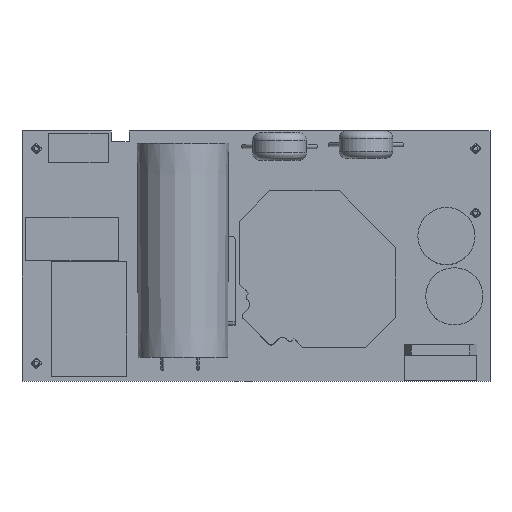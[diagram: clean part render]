
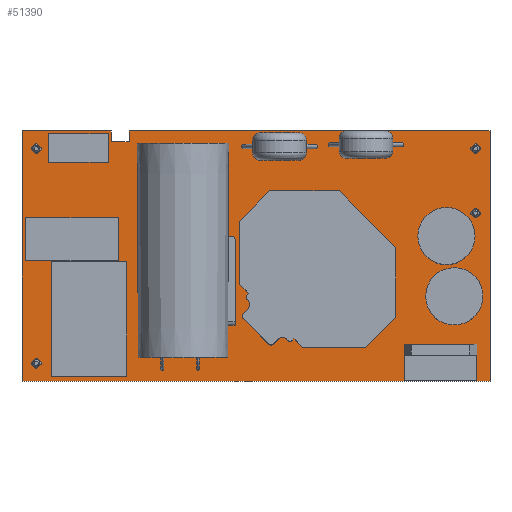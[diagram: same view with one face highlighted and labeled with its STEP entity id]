
A CAD part, top view. The second image highlights one B-rep face of the part: STEP entity #51390.
In plain terms, the highlighted planar face has unit normal (0, 0, 1).
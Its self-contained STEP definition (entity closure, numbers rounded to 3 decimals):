
#49990=CARTESIAN_POINT('',(40.036,101.806,-17.));
#50000=VERTEX_POINT('',#49990);
#50030=CARTESIAN_POINT('',(44.91,101.806,-17.));
#50040=DIRECTION('',(-1.,0.,0.));
#50050=VECTOR('',#50040,1.);
#50060=LINE('',#50030,#50050);
#50070=CARTESIAN_POINT('',(37.536,101.806,-17.));
#50080=VERTEX_POINT('',#50070);
#50090=EDGE_CURVE('',#50000,#50080,#50060,.T.);
#50210=CARTESIAN_POINT('',(44.91,104.626,-17.));
#50220=DIRECTION('',(0.,0.,-1.));
#50230=DIRECTION('',(-1.,0.,0.));
#50240=AXIS2_PLACEMENT_3D('',#50210,#50220,#50230);
#50250=PLANE('',#50240);
#50260=CARTESIAN_POINT('',(25.036,103.306,-17.));
#50270=DIRECTION('',(1.,0.,0.));
#50280=VECTOR('',#50270,1.);
#50290=LINE('',#50260,#50280);
#50300=CARTESIAN_POINT('',(25.036,103.306,-17.));
#50310=VERTEX_POINT('',#50300);
#50320=CARTESIAN_POINT('',(37.536,103.306,-17.));
#50330=VERTEX_POINT('',#50320);
#50340=EDGE_CURVE('',#50310,#50330,#50290,.T.);
#50350=ORIENTED_EDGE('',*,*,#50340,.F.);
#50360=CARTESIAN_POINT('',(37.536,104.626,-17.));
#50370=DIRECTION('',(0.,1.,0.));
#50380=VECTOR('',#50370,1.);
#50390=LINE('',#50360,#50380);
#50400=EDGE_CURVE('',#50080,#50330,#50390,.T.);
#50410=ORIENTED_EDGE('',*,*,#50400,.T.);
#50420=ORIENTED_EDGE('',*,*,#50090,.T.);
#50430=CARTESIAN_POINT('',(40.036,104.626,-17.));
#50440=DIRECTION('',(0.,-1.,0.));
#50450=VECTOR('',#50440,1.);
#50460=LINE('',#50430,#50450);
#50470=CARTESIAN_POINT('',(40.036,103.306,-17.));
#50480=VERTEX_POINT('',#50470);
#50490=EDGE_CURVE('',#50480,#50000,#50460,.T.);
#50500=ORIENTED_EDGE('',*,*,#50490,.T.);
#50510=CARTESIAN_POINT('',(90.536,103.306,-17.));
#50520=VERTEX_POINT('',#50510);
#50530=EDGE_CURVE('',#50480,#50520,#50290,.T.);
#50540=ORIENTED_EDGE('',*,*,#50530,.F.);
#50550=CARTESIAN_POINT('',(90.536,103.306,-17.));
#50560=DIRECTION('',(0.,-1.,0.));
#50570=VECTOR('',#50560,1.);
#50580=LINE('',#50550,#50570);
#50590=CARTESIAN_POINT('',(90.536,68.306,-17.));
#50600=VERTEX_POINT('',#50590);
#50610=EDGE_CURVE('',#50520,#50600,#50580,.T.);
#50620=ORIENTED_EDGE('',*,*,#50610,.F.);
#50630=CARTESIAN_POINT('',(90.536,68.306,-17.));
#50640=DIRECTION('',(-1.,0.,0.));
#50650=VECTOR('',#50640,1.);
#50660=LINE('',#50630,#50650);
#50670=CARTESIAN_POINT('',(25.036,68.306,-17.));
#50680=VERTEX_POINT('',#50670);
#50690=EDGE_CURVE('',#50600,#50680,#50660,.T.);
#50700=ORIENTED_EDGE('',*,*,#50690,.F.);
#50710=CARTESIAN_POINT('',(25.036,68.306,-17.));
#50720=DIRECTION('',(0.,1.,0.));
#50730=VECTOR('',#50720,1.);
#50740=LINE('',#50710,#50730);
#50750=EDGE_CURVE('',#50680,#50310,#50740,.T.);
#50760=ORIENTED_EDGE('',*,*,#50750,.F.);
#50770=EDGE_LOOP('',(#50760,#50700,#50620,#50540,#50500,#50420,#50410,
#50350));
#50780=FACE_OUTER_BOUND('',#50770,.T.);
#50790=CARTESIAN_POINT('',(27.036,100.806,-17.));
#50800=DIRECTION('',(0.,0.,-1.));
#50810=DIRECTION('',(-1.,0.,0.));
#50820=AXIS2_PLACEMENT_3D('',#50790,#50800,#50810);
#50830=CIRCLE('',#50820,0.575);
#50840=CARTESIAN_POINT('',(26.461,100.806,-17.));
#50850=VERTEX_POINT('',#50840);
#50860=CARTESIAN_POINT('',(27.611,100.806,-17.));
#50870=VERTEX_POINT('',#50860);
#50880=EDGE_CURVE('',#50850,#50870,#50830,.T.);
#50890=ORIENTED_EDGE('',*,*,#50880,.T.);
#50900=EDGE_CURVE('',#50870,#50850,#50830,.T.);
#50910=ORIENTED_EDGE('',*,*,#50900,.T.);
#50920=EDGE_LOOP('',(#50910,#50890));
#50930=FACE_BOUND('',#50920,.T.);
#50940=CARTESIAN_POINT('',(88.536,91.806,-17.));
#50950=DIRECTION('',(0.,0.,-1.));
#50960=DIRECTION('',(-1.,0.,0.));
#50970=AXIS2_PLACEMENT_3D('',#50940,#50950,#50960);
#50980=CIRCLE('',#50970,0.575);
#50990=CARTESIAN_POINT('',(87.961,91.806,-17.));
#51000=VERTEX_POINT('',#50990);
#51010=CARTESIAN_POINT('',(89.111,91.806,-17.));
#51020=VERTEX_POINT('',#51010);
#51030=EDGE_CURVE('',#51000,#51020,#50980,.T.);
#51040=ORIENTED_EDGE('',*,*,#51030,.T.);
#51050=EDGE_CURVE('',#51020,#51000,#50980,.T.);
#51060=ORIENTED_EDGE('',*,*,#51050,.T.);
#51070=EDGE_LOOP('',(#51060,#51040));
#51080=FACE_BOUND('',#51070,.T.);
#51090=CARTESIAN_POINT('',(88.536,100.806,-17.));
#51100=DIRECTION('',(0.,0.,-1.));
#51110=DIRECTION('',(-1.,0.,0.));
#51120=AXIS2_PLACEMENT_3D('',#51090,#51100,#51110);
#51130=CIRCLE('',#51120,0.575);
#51140=CARTESIAN_POINT('',(87.961,100.806,-17.));
#51150=VERTEX_POINT('',#51140);
#51160=CARTESIAN_POINT('',(89.111,100.806,-17.));
#51170=VERTEX_POINT('',#51160);
#51180=EDGE_CURVE('',#51150,#51170,#51130,.T.);
#51190=ORIENTED_EDGE('',*,*,#51180,.T.);
#51200=EDGE_CURVE('',#51170,#51150,#51130,.T.);
#51210=ORIENTED_EDGE('',*,*,#51200,.T.);
#51220=EDGE_LOOP('',(#51210,#51190));
#51230=FACE_BOUND('',#51220,.T.);
#51240=CARTESIAN_POINT('',(27.036,70.806,-17.));
#51250=DIRECTION('',(0.,0.,-1.));
#51260=DIRECTION('',(-1.,0.,0.));
#51270=AXIS2_PLACEMENT_3D('',#51240,#51250,#51260);
#51280=CIRCLE('',#51270,0.575);
#51290=CARTESIAN_POINT('',(26.461,70.806,-17.));
#51300=VERTEX_POINT('',#51290);
#51310=CARTESIAN_POINT('',(27.611,70.806,-17.));
#51320=VERTEX_POINT('',#51310);
#51330=EDGE_CURVE('',#51300,#51320,#51280,.T.);
#51340=ORIENTED_EDGE('',*,*,#51330,.T.);
#51350=EDGE_CURVE('',#51320,#51300,#51280,.T.);
#51360=ORIENTED_EDGE('',*,*,#51350,.T.);
#51370=EDGE_LOOP('',(#51360,#51340));
#51380=FACE_BOUND('',#51370,.T.);
#51390=ADVANCED_FACE('',(#50780,#50930,#51080,#51230,#51380),#50250,.F.)
;
